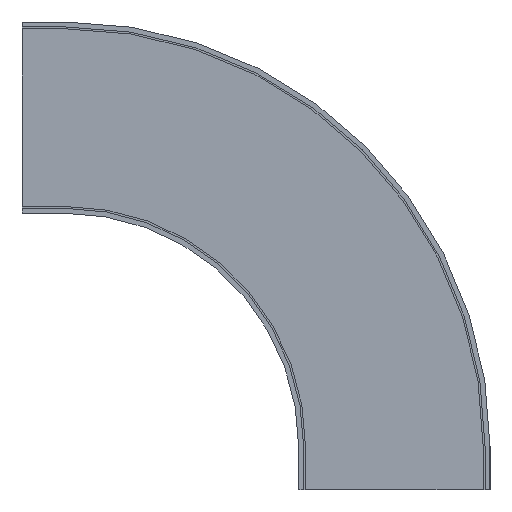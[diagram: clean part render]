
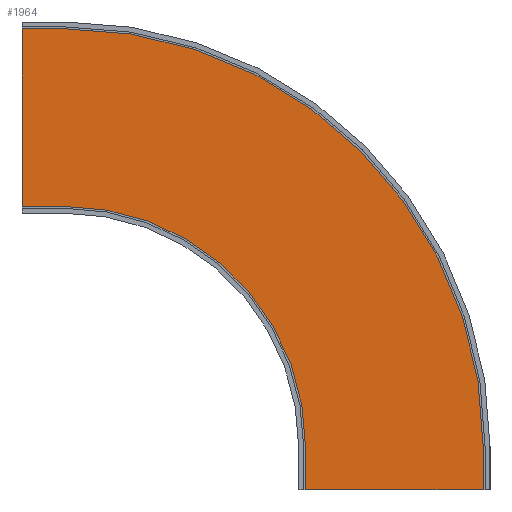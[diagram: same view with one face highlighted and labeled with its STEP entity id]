
A CAD part, front view. The second image highlights one B-rep face of the part: STEP entity #1964.
In plain terms, the highlighted planar face has unit normal (0, -1, 0).
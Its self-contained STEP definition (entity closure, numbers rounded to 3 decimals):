
#38 = VERTEX_POINT ( 'NONE', #988 ) ;
#92 = FACE_OUTER_BOUND ( 'NONE', #757, .T. ) ;
#94 = ORIENTED_EDGE ( 'NONE', *, *, #154, .F. ) ;
#114 = CARTESIAN_POINT ( 'NONE',  ( 0., -68.25, -52.5 ) ) ;
#154 = EDGE_CURVE ( 'NONE', #242, #1885, #949, .T. ) ;
#174 = EDGE_CURVE ( 'NONE', #1332, #1885, #2137, .T. ) ;
#242 = VERTEX_POINT ( 'NONE', #504 ) ;
#258 = VECTOR ( 'NONE', #2138, 1000. ) ;
#310 = DIRECTION ( 'NONE',  ( 0., 1., 0. ) ) ;
#363 = CARTESIAN_POINT ( 'NONE',  ( 507.95, -68.25, 0. ) ) ;
#419 = ORIENTED_EDGE ( 'NONE', *, *, #1049, .F. ) ;
#495 = ORIENTED_EDGE ( 'NONE', *, *, #174, .T. ) ;
#504 = CARTESIAN_POINT ( 'NONE',  ( 0., -68.25, 507.95 ) ) ;
#554 = ORIENTED_EDGE ( 'NONE', *, *, #611, .F. ) ;
#588 = EDGE_CURVE ( 'NONE', #38, #242, #947, .T. ) ;
#611 = EDGE_CURVE ( 'NONE', #1853, #1802, #759, .T. ) ;
#639 = DIRECTION ( 'NONE',  ( -1., 0., 0. ) ) ;
#713 = DIRECTION ( 'NONE',  ( 1., 0., 0. ) ) ;
#740 = PLANE ( 'NONE',  #1122 ) ;
#757 = EDGE_LOOP ( 'NONE', ( #793, #554, #1229, #495, #94, #920, #419, #1075 ) ) ;
#759 = LINE ( 'NONE', #1176, #258 ) ;
#776 = DIRECTION ( 'NONE',  ( 1., 0., 0. ) ) ;
#793 = ORIENTED_EDGE ( 'NONE', *, *, #2426, .T. ) ;
#822 = CARTESIAN_POINT ( 'NONE',  ( 0., -68.25, 0. ) ) ;
#894 = VECTOR ( 'NONE', #1661, 1000. ) ;
#898 = VERTEX_POINT ( 'NONE', #1566 ) ;
#920 = ORIENTED_EDGE ( 'NONE', *, *, #588, .F. ) ;
#947 = LINE ( 'NONE', #1734, #2407 ) ;
#949 = CIRCLE ( 'NONE', #1148, 507.95 ) ;
#960 = VECTOR ( 'NONE', #713, 1000. ) ;
#981 = CIRCLE ( 'NONE', #2101, 292.05 ) ;
#983 = LINE ( 'NONE', #114, #894 ) ;
#988 = CARTESIAN_POINT ( 'NONE',  ( -52.5, -68.25, 507.95 ) ) ;
#1004 = VECTOR ( 'NONE', #1219, 1000. ) ;
#1049 = EDGE_CURVE ( 'NONE', #2184, #38, #1857, .T. ) ;
#1075 = ORIENTED_EDGE ( 'NONE', *, *, #1520, .T. ) ;
#1084 = DIRECTION ( 'NONE',  ( -1., 0., 0. ) ) ;
#1104 = CARTESIAN_POINT ( 'NONE',  ( 292.05, -68.25, 0. ) ) ;
#1122 = AXIS2_PLACEMENT_3D ( 'NONE', #1536, #1922, #1915 ) ;
#1148 = AXIS2_PLACEMENT_3D ( 'NONE', #822, #1209, #639 ) ;
#1176 = CARTESIAN_POINT ( 'NONE',  ( 292.05, -68.25, -52.5 ) ) ;
#1209 = DIRECTION ( 'NONE',  ( 0., 1., 0. ) ) ;
#1219 = DIRECTION ( 'NONE',  ( 0., 0., 1. ) ) ;
#1229 = ORIENTED_EDGE ( 'NONE', *, *, #2045, .F. ) ;
#1289 = LINE ( 'NONE', #2041, #960 ) ;
#1332 = VERTEX_POINT ( 'NONE', #1352 ) ;
#1352 = CARTESIAN_POINT ( 'NONE',  ( 507.95, -68.25, -52.5 ) ) ;
#1520 = EDGE_CURVE ( 'NONE', #2184, #898, #1289, .T. ) ;
#1536 = CARTESIAN_POINT ( 'NONE',  ( 0., -68.25, 292.05 ) ) ;
#1566 = CARTESIAN_POINT ( 'NONE',  ( 0., -68.25, 292.05 ) ) ;
#1590 = CARTESIAN_POINT ( 'NONE',  ( -52.5, -68.25, 0. ) ) ;
#1661 = DIRECTION ( 'NONE',  ( -1., 0., 0. ) ) ;
#1734 = CARTESIAN_POINT ( 'NONE',  ( -52.5, -68.25, 507.95 ) ) ;
#1766 = VECTOR ( 'NONE', #1993, 1000. ) ;
#1802 = VERTEX_POINT ( 'NONE', #1104 ) ;
#1846 = CARTESIAN_POINT ( 'NONE',  ( 0., -68.25, 0. ) ) ;
#1851 = CARTESIAN_POINT ( 'NONE',  ( -52.5, -68.25, 292.05 ) ) ;
#1853 = VERTEX_POINT ( 'NONE', #2452 ) ;
#1857 = LINE ( 'NONE', #1590, #1766 ) ;
#1885 = VERTEX_POINT ( 'NONE', #363 ) ;
#1915 = DIRECTION ( 'NONE',  ( -1., 0., 0. ) ) ;
#1922 = DIRECTION ( 'NONE',  ( 0., 1., 0. ) ) ;
#1964 = ADVANCED_FACE ( 'NONE', ( #92 ), #740, .F. ) ;
#1993 = DIRECTION ( 'NONE',  ( 0., 0., 1. ) ) ;
#2041 = CARTESIAN_POINT ( 'NONE',  ( -52.5, -68.25, 292.05 ) ) ;
#2045 = EDGE_CURVE ( 'NONE', #1332, #1853, #983, .T. ) ;
#2101 = AXIS2_PLACEMENT_3D ( 'NONE', #1846, #310, #1084 ) ;
#2137 = LINE ( 'NONE', #2358, #1004 ) ;
#2138 = DIRECTION ( 'NONE',  ( 0., 0., 1. ) ) ;
#2184 = VERTEX_POINT ( 'NONE', #1851 ) ;
#2358 = CARTESIAN_POINT ( 'NONE',  ( 507.95, -68.25, -52.5 ) ) ;
#2407 = VECTOR ( 'NONE', #776, 1000. ) ;
#2426 = EDGE_CURVE ( 'NONE', #898, #1802, #981, .T. ) ;
#2452 = CARTESIAN_POINT ( 'NONE',  ( 292.05, -68.25, -52.5 ) ) ;
